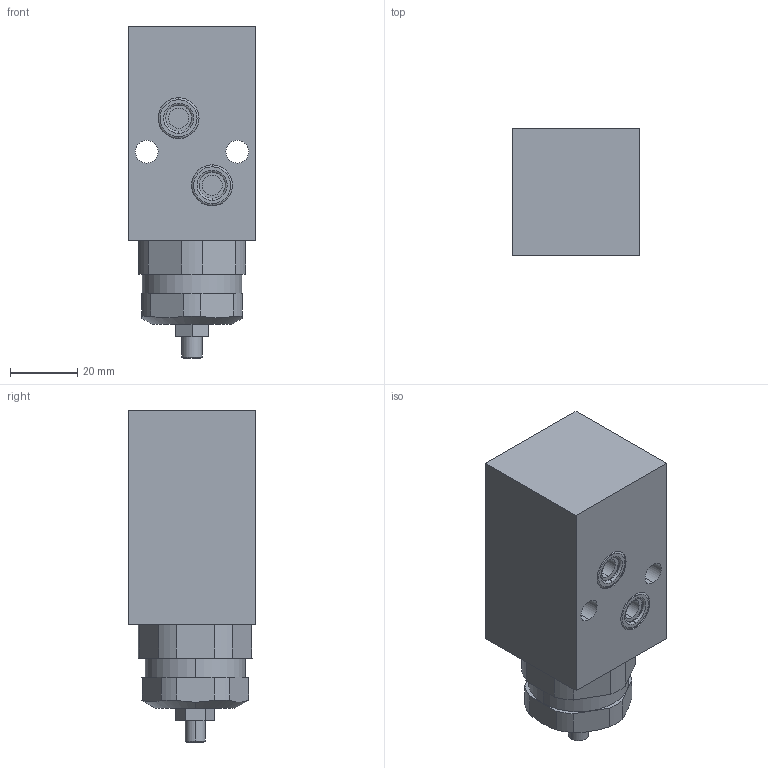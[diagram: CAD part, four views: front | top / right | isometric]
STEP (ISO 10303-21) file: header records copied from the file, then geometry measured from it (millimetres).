
FILE_DESCRIPTION(/* description */ (''),/* implementation_level */ '2;1');
FILE_NAME(/* name */ 'PBGT-LA.stp',/* time_stamp */ '2024-10-24T09:09:31+08:00',/* author */ (''),/* organization */ (''),/* preprocessor_version */ 'ST-DEVELOPER v16.7',/* originating_system */ 'SIEMENS PLM Software NX 12.0',/* authorisation */ '');
FILE_SCHEMA (('AP203_CONFIGURATION_CONTROLLED_3D_DESIGN_OF_MECHANICAL_PARTS_AND_ASSEMBLIES_MIM_LF { 1 0 10303 403 2 1 2}'));
Length unit declared in the file: millimetre
Products named in the file (1): VEF-LG_step
Bounding box: 38 x 38 x 99 mm (x, y, z)
Volume: 108965 mm3; surface area: 17360.1 mm2
Topology: 1 solids, 3 shells, 100 faces, 234 edges, 150 vertices
Faces by surface type: plane 44, cylinder 36, torus 16, cone 4
Entity records: 3004 total; most frequent: DIRECTION 536, CARTESIAN_POINT 517, ORIENTED_EDGE 468, EDGE_CURVE 234, AXIS2_PLACEMENT_3D 209, VERTEX_POINT 150, EDGE_LOOP 118, LINE 118
